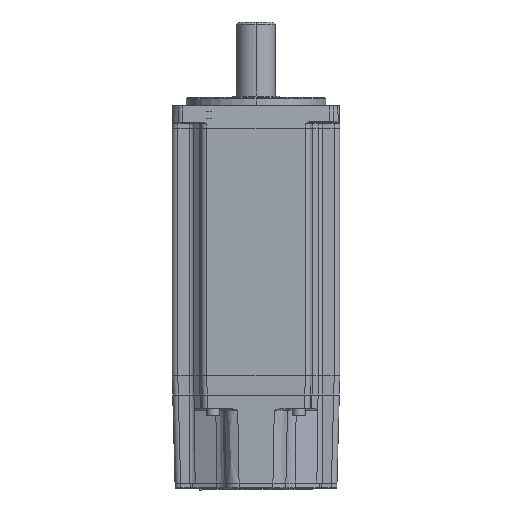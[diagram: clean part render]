
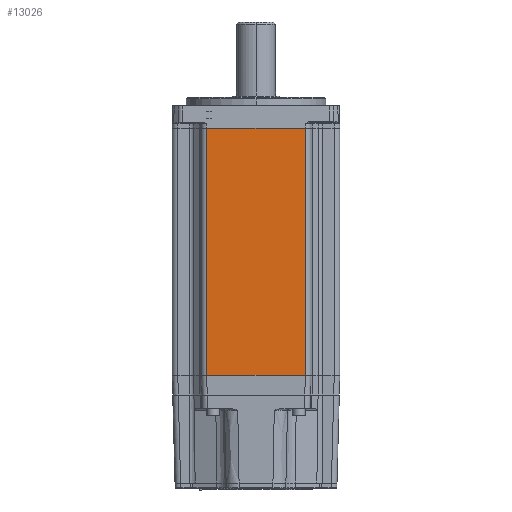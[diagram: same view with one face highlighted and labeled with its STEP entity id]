
A CAD part, front view. The second image highlights one B-rep face of the part: STEP entity #13026.
In plain terms, the highlighted planar face has unit normal (0, -1, 0).
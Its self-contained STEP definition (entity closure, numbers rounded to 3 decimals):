
#665 = EDGE_CURVE ( 'NONE', #35633, #41319, #7949, .T. ) ;
#4050 = DIRECTION ( 'NONE',  ( 1., 0., 0. ) ) ;
#5222 = VECTOR ( 'NONE', #7450, 1000. ) ;
#7450 = DIRECTION ( 'NONE',  ( 1., 0., 0. ) ) ;
#7949 = LINE ( 'NONE', #46715, #5222 ) ;
#9054 = CARTESIAN_POINT ( 'NONE',  ( 17.65, -30., 34.347 ) ) ;
#10520 = EDGE_CURVE ( 'NONE', #43872, #35633, #27266, .T. ) ;
#11485 = CARTESIAN_POINT ( 'NONE',  ( -17.65, -30., 34.347 ) ) ;
#13026 = ADVANCED_FACE ( 'NONE', ( #14800 ), #33426, .F. ) ;
#14800 = FACE_OUTER_BOUND ( 'NONE', #42396, .T. ) ;
#14945 = ORIENTED_EDGE ( 'NONE', *, *, #41342, .T. ) ;
#17184 = DIRECTION ( 'NONE',  ( 0., 0., 1. ) ) ;
#17189 = DIRECTION ( 'NONE',  ( 0., 0., 1. ) ) ;
#20224 = VERTEX_POINT ( 'NONE', #9054 ) ;
#23146 = CARTESIAN_POINT ( 'NONE',  ( -17.65, -30., -54.153 ) ) ;
#25807 = LINE ( 'NONE', #38742, #47416 ) ;
#26794 = ORIENTED_EDGE ( 'NONE', *, *, #665, .T. ) ;
#27266 = LINE ( 'NONE', #11485, #53605 ) ;
#33426 = PLANE ( 'NONE',  #52480 ) ;
#34929 = ORIENTED_EDGE ( 'NONE', *, *, #46925, .F. ) ;
#35633 = VERTEX_POINT ( 'NONE', #23146 ) ;
#38742 = CARTESIAN_POINT ( 'NONE',  ( 17.65, -30., 34.347 ) ) ;
#39134 = LINE ( 'NONE', #47852, #41182 ) ;
#41182 = VECTOR ( 'NONE', #4050, 1000. ) ;
#41319 = VERTEX_POINT ( 'NONE', #55928 ) ;
#41342 = EDGE_CURVE ( 'NONE', #41319, #20224, #25807, .T. ) ;
#41732 = DIRECTION ( 'NONE',  ( 0., 1., 0. ) ) ;
#42396 = EDGE_LOOP ( 'NONE', ( #26794, #14945, #34929, #43246 ) ) ;
#43226 = CARTESIAN_POINT ( 'NONE',  ( 0., -30., 34.347 ) ) ;
#43246 = ORIENTED_EDGE ( 'NONE', *, *, #10520, .T. ) ;
#43872 = VERTEX_POINT ( 'NONE', #46238 ) ;
#46238 = CARTESIAN_POINT ( 'NONE',  ( -17.65, -30., 34.347 ) ) ;
#46715 = CARTESIAN_POINT ( 'NONE',  ( 0., -30., -54.153 ) ) ;
#46925 = EDGE_CURVE ( 'NONE', #43872, #20224, #39134, .T. ) ;
#47416 = VECTOR ( 'NONE', #17189, 1000. ) ;
#47852 = CARTESIAN_POINT ( 'NONE',  ( 0., -30., 34.347 ) ) ;
#50225 = DIRECTION ( 'NONE',  ( 0., 0., -1. ) ) ;
#52480 = AXIS2_PLACEMENT_3D ( 'NONE', #43226, #41732, #17184 ) ;
#53605 = VECTOR ( 'NONE', #50225, 1000. ) ;
#55928 = CARTESIAN_POINT ( 'NONE',  ( 17.65, -30., -54.153 ) ) ;
